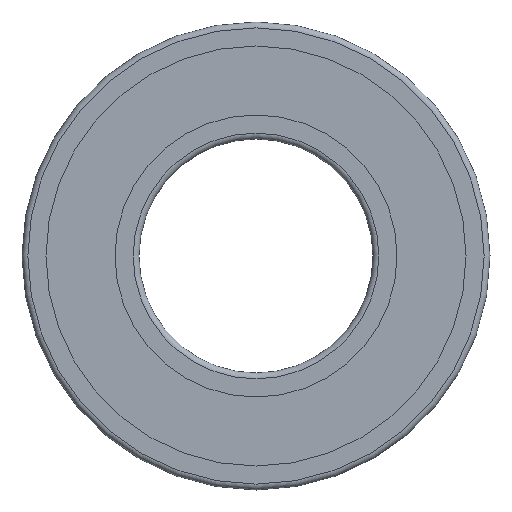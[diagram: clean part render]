
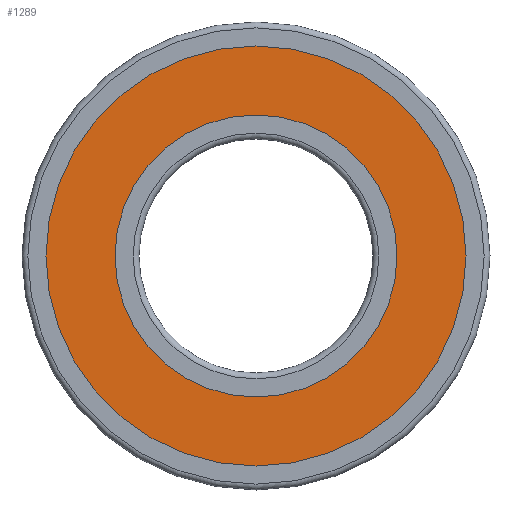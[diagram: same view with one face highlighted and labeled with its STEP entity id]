
A CAD part, left-side view. The second image highlights one B-rep face of the part: STEP entity #1289.
In plain terms, the highlighted planar face has unit normal (-1, 0, 0).
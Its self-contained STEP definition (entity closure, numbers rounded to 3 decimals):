
#222=FACE_BOUND($,#404,.T.);
#223=FACE_BOUND($,#405,.T.);
#404=EDGE_LOOP($,(#1174));
#405=EDGE_LOOP($,(#1175));
#529=CIRCLE($,#1503,7.23);
#532=CIRCLE($,#1508,10.77);
#655=VERTEX_POINT($,#3269);
#658=VERTEX_POINT($,#3277);
#828=EDGE_CURVE($,#655,#655,#529,.T.);
#831=EDGE_CURVE($,#658,#658,#532,.T.);
#1174=ORIENTED_EDGE($,*,*,#828,.T.);
#1175=ORIENTED_EDGE($,*,*,#831,.F.);
#1211=PLANE($,#1507);
#1289=ADVANCED_FACE($,(#222,#223),#1211,.T.);
#1503=AXIS2_PLACEMENT_3D($,#3270,#1933,#1934);
#1507=AXIS2_PLACEMENT_3D($,#3276,#1941,#1942);
#1508=AXIS2_PLACEMENT_3D($,#3278,#1943,#1944);
#1933=DIRECTION('center_axis',(1.,0.,0.));
#1934=DIRECTION('ref_axis',(0.,0.,-1.));
#1941=DIRECTION('center_axis',(-1.,0.,0.));
#1942=DIRECTION('ref_axis',(0.,0.,1.));
#1943=DIRECTION('center_axis',(1.,0.,0.));
#1944=DIRECTION('ref_axis',(0.,0.,-1.));
#3269=CARTESIAN_POINT('',(-3.,7.23,0.));
#3270=CARTESIAN_POINT('Origin',(-3.,0.,0.));
#3276=CARTESIAN_POINT('Origin',(-3.,10.77,0.));
#3277=CARTESIAN_POINT('',(-3.,10.77,0.));
#3278=CARTESIAN_POINT('Origin',(-3.,0.,0.));
